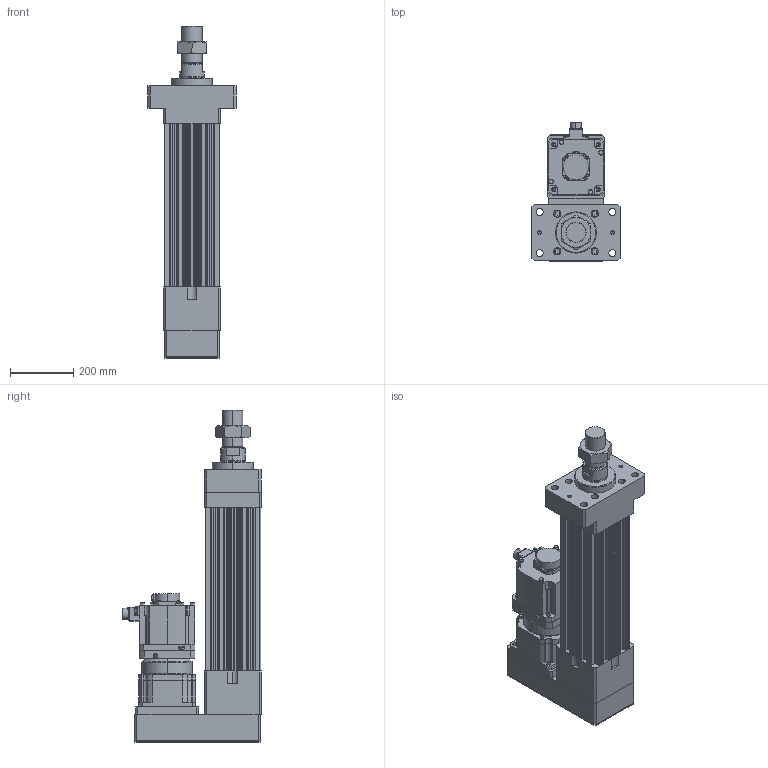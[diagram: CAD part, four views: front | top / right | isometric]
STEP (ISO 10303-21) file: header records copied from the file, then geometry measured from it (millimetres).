
FILE_DESCRIPTION (( 'STEP AP203' ), '1' );
FILE_NAME ('HES180HS-P200-W050G00-M-FMA.STEP', '2023-02-01T07:53:31', ( 'tms' ), ( '' ), 'SwSTEP 2.0', 'SolidWorks 2013', '' );
FILE_SCHEMA (( 'CONFIG_CONTROL_DESIGN' ));
Length unit declared in the file: millimetre
Products named in the file (9): HES180 ROD M ST200; HG-SR502; HES180-P200-G180-FMA; M64X2.0P; P1301600001; HES180HS-P200-W050G00-M-FMA; AB180-003[HG-SR702B]; AB1801; P0403600401
Assembly tree (8 placements, depth 3):
  HES180HS-P200-W050G00-M-FMA
    HES180-P200-G180-FMA
    HES180 ROD M ST200
    M64X2.0P
    AB180-003[HG-SR702B]
      AB1801
      P1301600001
      P0403600401
    HG-SR502
Bounding box: 280 x 438.85 x 1052 mm (x, y, z)
Volume: 26132715.4 mm3; surface area: 2135147.4 mm2
Topology: 4 solids, 19 shells, 1431 faces, 3715 edges, 2410 vertices
Faces by surface type: cylinder 663, plane 555, cone 146, bspline 63, torus 4
Entity records: 52578 total; most frequent: CARTESIAN_POINT 15982, DIRECTION 7693, ORIENTED_EDGE 7330, EDGE_CURVE 3689, AXIS2_PLACEMENT_3D 2901, VERTEX_POINT 2410, LINE 1891, VECTOR 1891
